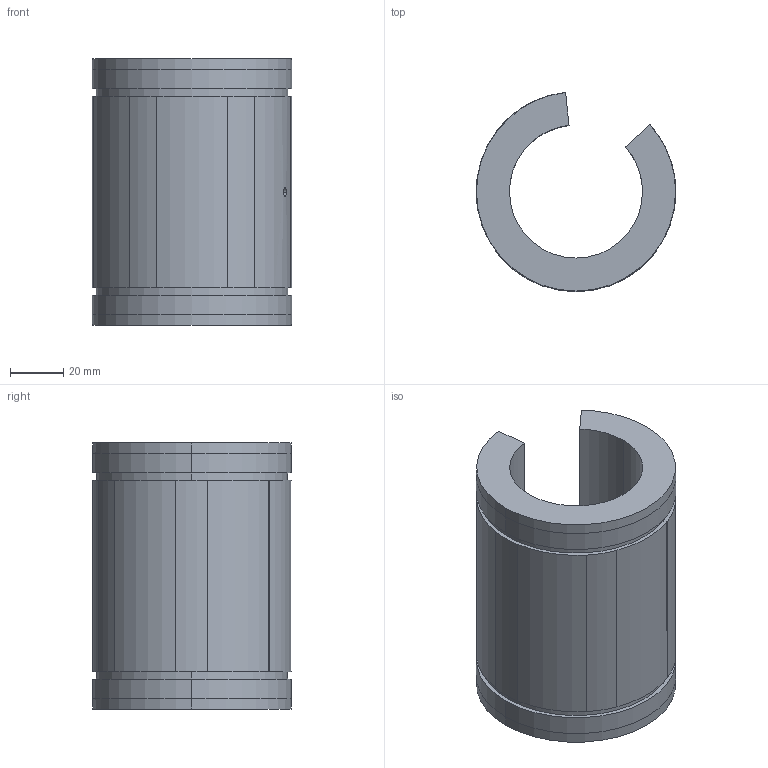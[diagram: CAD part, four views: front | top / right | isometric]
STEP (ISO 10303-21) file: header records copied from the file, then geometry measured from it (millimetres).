
FILE_DESCRIPTION((''),'2;1');
FILE_NAME('C:\Documents and Settings\ｿﾀﾀ蠑ｷ1\ｹﾙﾅﾁ ﾈｭｸ饅\ｺﾎﾇｰﾆﾄﾀﾏ\ﾁｦﾇｰ\LMES__UUOP\LMES50UUOP.stp','2005-06-15T14:08:48',('ｿﾀﾀ蠑ｷ1'),(''),'Autodesk Inventor 9','Autodesk Inventor 9','');
FILE_SCHEMA(('AUTOMOTIVE_DESIGN { 1 0 10303 214 1 1 1 1 }'));
Length unit declared in the file: millimetre
Products named in the file (1): LMES__OP
Bounding box: 75 x 74.79 x 100 mm (x, y, z)
Volume: 205924.1 mm3; surface area: 41141.4 mm2
Topology: 1 solids, 1 shells, 53 faces, 146 edges, 96 vertices
Faces by surface type: cylinder 28, plane 19, cone 6
Entity records: 1761 total; most frequent: CARTESIAN_POINT 330, DIRECTION 312, ORIENTED_EDGE 292, EDGE_CURVE 146, AXIS2_PLACEMENT_3D 114, VERTEX_POINT 96, VECTOR 84, LINE 84
